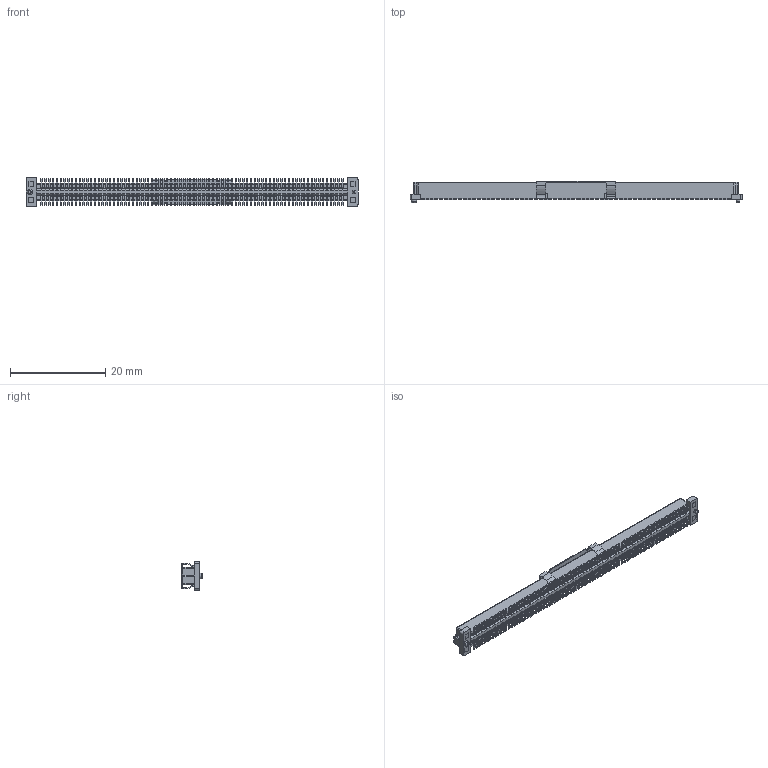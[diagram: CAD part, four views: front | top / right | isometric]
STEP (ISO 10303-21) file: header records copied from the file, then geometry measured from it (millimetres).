
FILE_DESCRIPTION (( 'STEP AP203' ), '1' );
FILE_NAME ('HC-PBB08-1-160-F-HX-XX-R-P-06 (BTB0.8 单槽 母座 立贴 带柱 编带+盖)-HCTL.STEP', '2025-12-18T01:50:09', ( '' ), ( '' ), 'SwSTEP 2.0', 'SolidWorks 2025', '' );
FILE_SCHEMA (( 'CONFIG_CONTROL_DESIGN' ));
Products named in the file (1): HC-PBB08-1-160-F-HX-XX-R-P-06 (BTB0.8 单槽 母座 立贴 带柱 编带+盖)-HCTL
Bounding box: 69.8 x 4.6 x 6 mm (x, y, z)
Volume: 691.4 mm3; surface area: 2972.3 mm2
Topology: 2 solids, 2 shells, 8527 faces, 26143 edges, 16994 vertices
Faces by surface type: plane 6541, cylinder 1964, bspline 10, cone 8, torus 4
Entity records: 291874 total; most frequent: CARTESIAN_POINT 56281, ORIENTED_EDGE 52286, DIRECTION 45815, EDGE_CURVE 26143, LINE 22179, VECTOR 22179, VERTEX_POINT 16994, AXIS2_PLACEMENT_3D 11818
